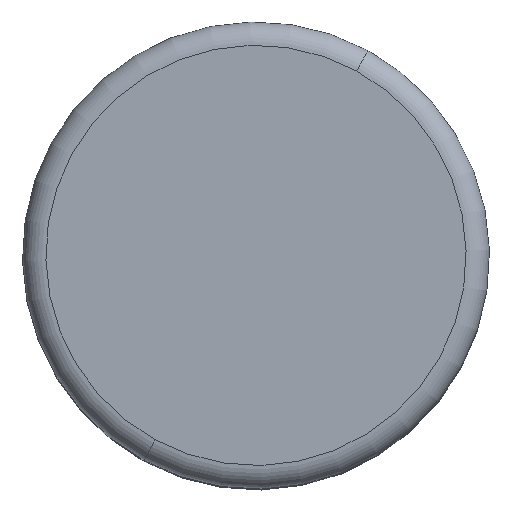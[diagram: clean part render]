
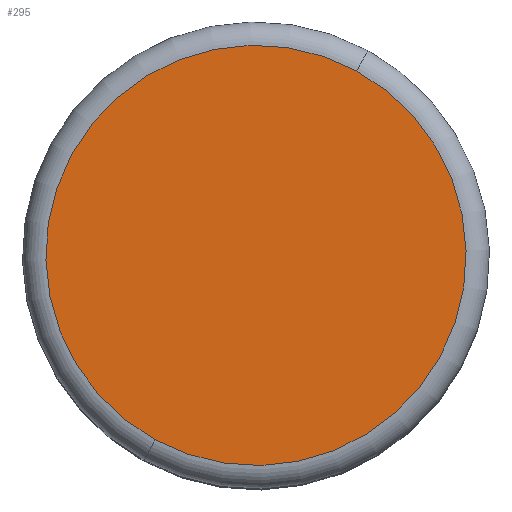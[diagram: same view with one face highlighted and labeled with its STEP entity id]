
A CAD part, top view. The second image highlights one B-rep face of the part: STEP entity #295.
In plain terms, the highlighted planar face has unit normal (0, 0, 1).
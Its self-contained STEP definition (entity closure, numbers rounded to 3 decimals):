
#242=CARTESIAN_POINT('Vertex',(8.63,15.796,60.)) ;
#245=CARTESIAN_POINT('Axis2P3D Location',(0.,0.,60.)) ;
#249=CARTESIAN_POINT('Vertex',(-8.63,-15.796,60.)) ;
#264=CARTESIAN_POINT('Axis2P3D Location',(0.,0.,60.)) ;
#286=CARTESIAN_POINT('Axis2P3D Location',(0.,18.,60.)) ;
#246=DIRECTION('Axis2P3D Direction',(0.,0.,-1.)) ;
#265=DIRECTION('Axis2P3D Direction',(0.,0.,-1.)) ;
#287=DIRECTION('Axis2P3D Direction',(0.,0.,-1.)) ;
#288=DIRECTION('Axis2P3D XDirection',(1.,0.,0.)) ;
#247=AXIS2_PLACEMENT_3D('Circle Axis2P3D',#245,#246,$) ;
#266=AXIS2_PLACEMENT_3D('Circle Axis2P3D',#264,#265,$) ;
#289=AXIS2_PLACEMENT_3D('Plane Axis2P3D',#286,#287,#288) ;
#292=ORIENTED_EDGE('',*,*,#251,.F.) ;
#293=ORIENTED_EDGE('',*,*,#268,.F.) ;
#295=ADVANCED_FACE('A519-40',(#294),#290,.F.) ;
#248=CIRCLE('generated circle',#247,18.) ;
#267=CIRCLE('generated circle',#266,18.) ;
#251=EDGE_CURVE('',#243,#250,#248,.T.) ;
#268=EDGE_CURVE('',#250,#243,#267,.T.) ;
#291=EDGE_LOOP('',(#292,#293)) ;
#294=FACE_OUTER_BOUND('',#291,.T.) ;
#290=PLANE('Plane',#289) ;
#243=VERTEX_POINT('',#242) ;
#250=VERTEX_POINT('',#249) ;
